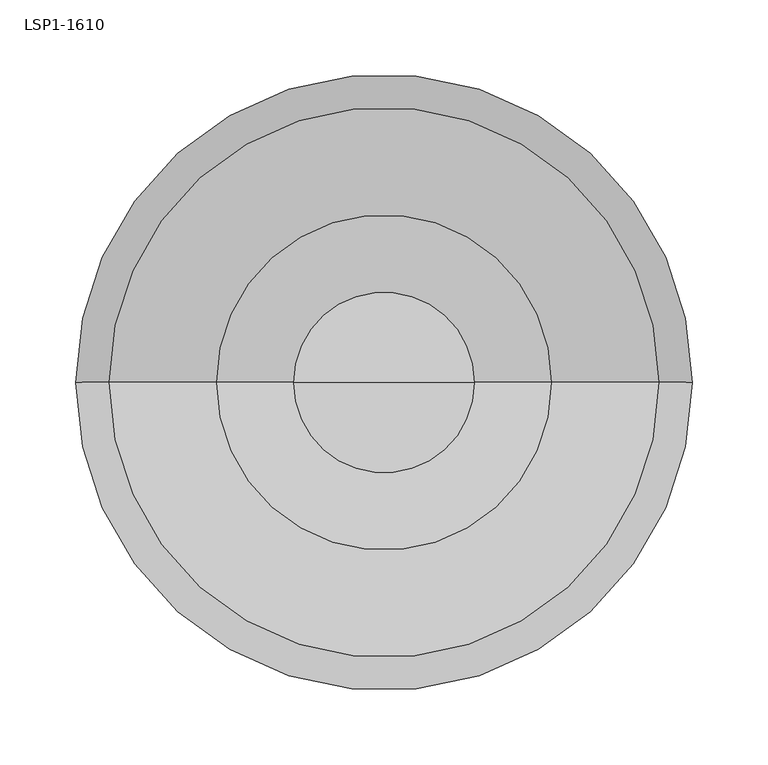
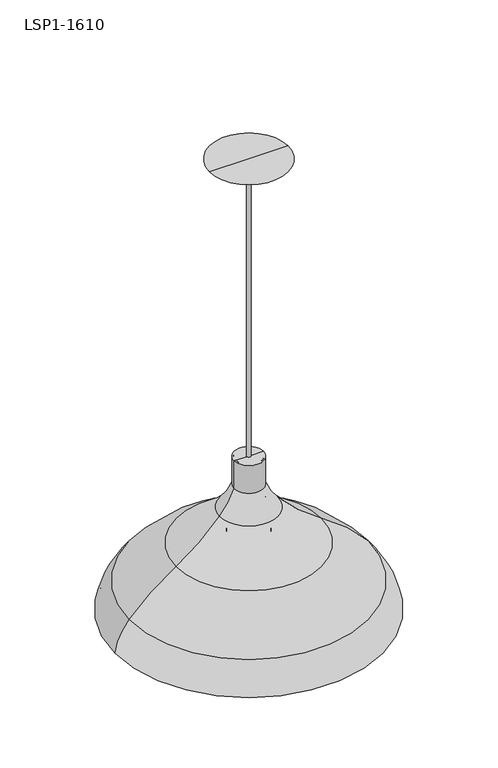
"""IFC4 building model written with IfcOpenShell, lengths in millimetres: light fixture geometry, Haworth_Swell_PendantOneLight : LSP1-1610."""

from ifc_helpers import new_model, si_unit, point, frame, origin, place, context, project, spatial, polyline, circle_curve, ellipse_curve, trimmed, source, transform, mapped, element, save
from ifc_brep_helpers import plane_surface, cylinder_surface, revolved_surface, advanced_brep


def lsp1_1610_0fb98976(model_context):
    return source(origin(), model_context, "Body", "AdvancedBrep", [
        advanced_brep(
        [(-434.1339478, -224.1223386, 2526.8983149), (-436.807265, -224.1223386, 2479.1977381), (-393.3437457, -224.1223386, 2479.1977381), (-396.0170628, -224.1223386, 2526.8983149), (-431.4411306, -224.1223386, 2526.8983149), (-398.70988, -224.1223386, 2526.8983149), (-434.1777176, -224.1223386, 2479.1498223), (-395.9732931, -224.1223386, 2479.1498223), (-432.560074, -224.1223386, 2479.1498223), (-397.5909366, -224.1223386, 2479.1498223), (-440.9016384, -224.1223386, 2454.9241603), (-389.2493722, -224.1223386, 2454.9241603), (-440.4092806, -224.1223386, 2450.598757), (-389.7417301, -224.1223386, 2450.598757), (-442.4017725, -224.1223386, 2450.598757), (-387.7492381, -224.1223386, 2450.598757), (-442.9636091, -224.1223386, 2456.4743423), (-387.1874015, -224.1223386, 2456.4743423), (-435.1393165, -224.1223386, 2479.1977381), (-395.0116942, -224.1223386, 2479.1977381)],
        [
            (0, 1, circle_curve(frame((-334.1474437, -224.1223386, 2497.3695008), z_axis=(0.0, -1.0, 0.0), x_axis=(-1.0, 0.0, 0.0)), 104.2557043)),
            (1, 2, circle_curve(frame((-415.0755053, -224.1223386, 2479.1977381), z_axis=(0.0, 0.0, 1.0), x_axis=(1.0, 0.0, 0.0)), 21.7317596)),
            (2, 3, circle_curve(frame((-496.003567, -224.1223386, 2497.3695008), z_axis=(0.0, -1.0, 0.0), x_axis=(1.0, 0.0, 0.0)), 104.2557043)),
            (3, 0, circle_curve(frame((-415.0755053, -224.1223386, 2526.8983149), z_axis=(0.0, 0.0, -1.0), x_axis=(1.0, 0.0, 0.0)), 19.0584425)),
            (2, 1, circle_curve(frame((-415.0755053, -224.1223386, 2479.1977381), z_axis=(0.0, 0.0, 1.0), x_axis=(1.0, 0.0, 0.0)), 21.7317596)),
            (0, 3, circle_curve(frame((-415.0755053, -224.1223386, 2526.8983149), z_axis=(0.0, 0.0, -1.0), x_axis=(1.0, 0.0, 0.0)), 19.0584425)),
            (4, 0),
            (3, 5),
            (5, 4, circle_curve(frame((-415.0755053, -224.1223386, 2526.8983149), z_axis=(0.0, 0.0, -1.0), x_axis=(1.0, 0.0, 0.0)), 16.3656253)),
            (4, 5, circle_curve(frame((-415.0755053, -224.1223386, 2526.8983149), z_axis=(0.0, 0.0, -1.0), x_axis=(1.0, 0.0, 0.0)), 16.3656253)),
            (6, 4, circle_curve(frame((-334.1474437, -224.1223386, 2497.3695008), z_axis=(0.0, 1.0, 0.0), x_axis=(-1.0, 0.0, 0.0)), 101.6760168)),
            (5, 7, circle_curve(frame((-496.003567, -224.1223386, 2497.3695008), z_axis=(0.0, 1.0, 0.0), x_axis=(1.0, 0.0, 0.0)), 101.6760168)),
            (7, 6, circle_curve(frame((-415.0755053, -224.1223386, 2479.1498223), z_axis=(0.0, 0.0, -1.0), x_axis=(1.0, 0.0, 0.0)), 19.1022122)),
            (6, 7, circle_curve(frame((-415.0755053, -224.1223386, 2479.1498223), z_axis=(0.0, 0.0, -1.0), x_axis=(1.0, 0.0, 0.0)), 19.1022122)),
            (8, 6),
            (7, 9),
            (9, 8, circle_curve(frame((-415.0755053, -224.1223386, 2479.1498223), z_axis=(0.0, 0.0, -1.0), x_axis=(1.0, 0.0, 0.0)), 17.4845687)),
            (8, 9, circle_curve(frame((-415.0755053, -224.1223386, 2479.1498223), z_axis=(0.0, 0.0, -1.0), x_axis=(1.0, 0.0, 0.0)), 17.4845687)),
            (10, 8, circle_curve(frame((-474.1531388, -224.1223386, 2479.9225165), z_axis=(0.0, -1.0, 0.0), x_axis=(-1.0, 0.0, 0.0)), 41.6002415)),
            (9, 11, circle_curve(frame((-355.9978718, -224.1223386, 2479.9225165), z_axis=(0.0, -1.0, 0.0), x_axis=(1.0, 0.0, 0.0)), 41.6002415)),
            (11, 10, circle_curve(frame((-415.0755053, -224.1223386, 2454.9241603), z_axis=(0.0, 0.0, -1.0), x_axis=(1.0, 0.0, 0.0)), 25.8261331)),
            (10, 11, circle_curve(frame((-415.0755053, -224.1223386, 2454.9241603), z_axis=(0.0, 0.0, -1.0), x_axis=(1.0, 0.0, 0.0)), 25.8261331)),
            (12, 10, circle_curve(frame((-438.3708401, -224.1223386, 2453.0215154), z_axis=(0.0, 1.0, 0.0), x_axis=(-1.0, 0.0, 0.0)), 3.1662277)),
            (11, 13, circle_curve(frame((-391.7801705, -224.1223386, 2453.0215154), z_axis=(0.0, 1.0, 0.0), x_axis=(1.0, 0.0, 0.0)), 3.1662277)),
            (13, 12, circle_curve(frame((-415.0755053, -224.1223386, 2450.598757), z_axis=(0.0, 0.0, -1.0), x_axis=(1.0, 0.0, 0.0)), 25.3337753)),
            (12, 13, circle_curve(frame((-415.0755053, -224.1223386, 2450.598757), z_axis=(0.0, 0.0, -1.0), x_axis=(1.0, 0.0, 0.0)), 25.3337753)),
            (14, 12),
            (13, 15),
            (15, 14, circle_curve(frame((-415.0755053, -224.1223386, 2450.598757), z_axis=(0.0, 0.0, -1.0), x_axis=(1.0, 0.0, 0.0)), 27.3262672)),
            (14, 15, circle_curve(frame((-415.0755053, -224.1223386, 2450.598757), z_axis=(0.0, 0.0, -1.0), x_axis=(1.0, 0.0, 0.0)), 27.3262672)),
            (16, 14, circle_curve(frame((-441.4055265, -224.1223386, 2453.658675), z_axis=(0.0, -1.0, 0.0), x_axis=(-1.0, 0.0, 0.0)), 3.2180124)),
            (15, 17, circle_curve(frame((-388.7454841, -224.1223386, 2453.658675), z_axis=(0.0, -1.0, 0.0), x_axis=(1.0, 0.0, 0.0)), 3.2180124)),
            (17, 16, circle_curve(frame((-415.0755053, -224.1223386, 2456.4743423), z_axis=(0.0, 0.0, -1.0), x_axis=(1.0, 0.0, 0.0)), 27.8881038)),
            (16, 17, circle_curve(frame((-415.0755053, -224.1223386, 2456.4743423), z_axis=(0.0, 0.0, -1.0), x_axis=(1.0, 0.0, 0.0)), 27.8881038)),
            (18, 16, circle_curve(frame((-474.1531388, -224.1223386, 2479.9225165), z_axis=(0.0, 1.0, 0.0), x_axis=(-1.0, 0.0, 0.0)), 39.020554)),
            (17, 19, circle_curve(frame((-355.9978718, -224.1223386, 2479.9225165), z_axis=(0.0, 1.0, 0.0), x_axis=(1.0, 0.0, 0.0)), 39.020554)),
            (19, 18, circle_curve(frame((-415.0755053, -224.1223386, 2479.1977381), z_axis=(0.0, 0.0, -1.0), x_axis=(1.0, 0.0, 0.0)), 20.0638111)),
            (18, 19, circle_curve(frame((-415.0755053, -224.1223386, 2479.1977381), z_axis=(0.0, 0.0, -1.0), x_axis=(1.0, 0.0, 0.0)), 20.0638111)),
            (1, 18),
            (19, 2),
        ],
        [
            revolved_surface(trimmed(ellipse_curve(frame((-496.003567, -224.1223386, 2497.3695008), z_axis=(0.0, -1.0, 0.0), x_axis=(1.0, 0.0, 0.0)), 104.2557043, 104.2557043), [point((-393.3437457, -224.1223386, 2479.1977381))], [point((-396.0170628, -224.1223386, 2526.8983149))], True, "CARTESIAN"), (-415.0755053, -224.1223386, 2507.6449843), (0.0, 0.0, 1.0)),
            plane_surface(frame((-415.0755053, -224.1223386, 2526.8983149), z_axis=(0.0, 0.0, 1.0), x_axis=(1.0, 0.0, 0.0))),
            revolved_surface(trimmed(ellipse_curve(frame((-496.003567, -224.1223386, 2497.3695008), z_axis=(0.0, 1.0, 0.0), x_axis=(1.0, 0.0, 0.0)), 101.6760168, 101.6760168), [point((-398.70988, -224.1223386, 2526.8983149))], [point((-395.9732931, -224.1223386, 2479.1498223))], True, "CARTESIAN"), (-415.0755053, -224.1223386, 2507.6449843), (0.0, 0.0, 1.0)),
            plane_surface(frame((-415.0755053, -224.1223386, 2479.1498223), z_axis=(0.0, 0.0, 1.0), x_axis=(1.0, 0.0, 0.0))),
            revolved_surface(trimmed(ellipse_curve(frame((-355.9978718, -224.1223386, 2479.9225165), z_axis=(0.0, -1.0, 0.0), x_axis=(1.0, 0.0, 0.0)), 41.6002415, 41.6002415), [point((-397.5909366, -224.1223386, 2479.1498223))], [point((-389.2493722, -224.1223386, 2454.9241603))], True, "CARTESIAN"), (-415.0755053, -224.1223386, 2507.6449843), (0.0, 0.0, 1.0)),
            revolved_surface(trimmed(ellipse_curve(frame((-391.7801705, -224.1223386, 2453.0215154), z_axis=(0.0, 1.0, 0.0), x_axis=(1.0, 0.0, 0.0)), 3.1662277, 3.1662277), [point((-389.2493722, -224.1223386, 2454.9241603))], [point((-389.7417301, -224.1223386, 2450.598757))], True, "CARTESIAN"), (-415.0755053, -224.1223386, 2507.6449843), (0.0, 0.0, 1.0)),
            plane_surface(frame((-415.0755053, -224.1223386, 2450.598757), z_axis=(0.0, 0.0, -1.0), x_axis=(1.0, 0.0, 0.0))),
            revolved_surface(trimmed(ellipse_curve(frame((-388.7454841, -224.1223386, 2453.658675), z_axis=(0.0, -1.0, 0.0), x_axis=(1.0, 0.0, 0.0)), 3.2180124, 3.2180124), [point((-387.7492381, -224.1223386, 2450.598757))], [point((-387.1874015, -224.1223386, 2456.4743423))], True, "CARTESIAN"), (-415.0755053, -224.1223386, 2507.6449843), (0.0, 0.0, 1.0)),
            revolved_surface(trimmed(ellipse_curve(frame((-355.9978718, -224.1223386, 2479.9225165), z_axis=(0.0, 1.0, 0.0), x_axis=(1.0, 0.0, 0.0)), 39.020554, 39.020554), [point((-387.1874015, -224.1223386, 2456.4743423))], [point((-395.0116942, -224.1223386, 2479.1977381))], True, "CARTESIAN"), (-415.0755053, -224.1223386, 2507.6449843), (0.0, 0.0, 1.0)),
            plane_surface(frame((-415.0755053, -224.1223386, 2479.1977381), z_axis=(0.0, 0.0, -1.0), x_axis=(1.0, 0.0, 0.0))),
        ],
        [
            (0, [[1, 2, 3, 4]]),
            (0, [[-3, 5, -1, 6]]),
            (1, [[7, -4, 8, 9]]),
            (1, [[-8, -6, -7, 10]]),
            (2, [[11, -9, 12, 13]]),
            (2, [[-12, -10, -11, 14]]),
            (3, [[15, -13, 16, 17]]),
            (3, [[-16, -14, -15, 18]]),
            (4, [[19, -17, 20, 21]]),
            (4, [[-20, -18, -19, 22]]),
            (5, [[23, -21, 24, 25]]),
            (5, [[-24, -22, -23, 26]]),
            (6, [[27, -25, 28, 29]]),
            (6, [[-28, -26, -27, 30]]),
            (7, [[31, -29, 32, 33]]),
            (7, [[-32, -30, -31, 34]]),
            (8, [[35, -33, 36, 37]]),
            (8, [[-36, -34, -35, 38]]),
            (9, [[39, -37, 40, -2]]),
            (9, [[-40, -38, -39, -5]]),
        ],
    ),
        advanced_brep(
        [(-596.5646284, -224.1223386, 2372.4100703), (-618.2755053, -224.1223386, 2326.655318), (-211.8755053, -224.1223386, 2326.655318), (-233.5863822, -224.1223386, 2372.4100703), (-525.7075333, -224.1223386, 2433.0482753), (-304.4434773, -224.1223386, 2433.0482753), (-437.2818509, -224.1223386, 2526.8983149), (-459.0978708, -224.1223386, 2490.3341786), (-371.0531398, -224.1223386, 2490.3341786), (-392.8691597, -224.1223386, 2526.8983149), (-434.5295407, -224.1223386, 2526.8983149), (-395.62147, -224.1223386, 2526.8983149), (-457.1514699, -224.1223386, 2488.6411602), (-372.9995407, -224.1223386, 2488.6411602), (-524.3248861, -224.1223386, 2430.8704152), (-305.8261245, -224.1223386, 2430.8704152), (-594.6265251, -224.1223386, 2370.7075593), (-235.5244855, -224.1223386, 2370.7075593), (-615.7309871, -224.1223386, 2326.2308009), (-214.4200235, -224.1223386, 2326.2308009)],
        [
            (0, 1, circle_curve(frame((-527.176628, -224.1223386, 2311.4567492), z_axis=(0.0, -1.0, 0.0), x_axis=(-1.0, 0.0, 0.0)), 92.3580096)),
            (1, 2, circle_curve(frame((-415.0755053, -224.1223386, 2326.655318), z_axis=(0.0, 0.0, 1.0), x_axis=(1.0, 0.0, 0.0)), 203.2)),
            (2, 3, circle_curve(frame((-302.9743826, -224.1223386, 2311.4567492), z_axis=(0.0, -1.0, 0.0), x_axis=(1.0, 0.0, 0.0)), 92.3580096)),
            (3, 0, circle_curve(frame((-415.0755053, -224.1223386, 2372.4100703), z_axis=(0.0, 0.0, -1.0), x_axis=(1.0, 0.0, 0.0)), 181.4891231)),
            (2, 1, circle_curve(frame((-415.0755053, -224.1223386, 2326.655318), z_axis=(0.0, 0.0, 1.0), x_axis=(1.0, 0.0, 0.0)), 203.2)),
            (0, 3, circle_curve(frame((-415.0755053, -224.1223386, 2372.4100703), z_axis=(0.0, 0.0, -1.0), x_axis=(1.0, 0.0, 0.0)), 181.4891231)),
            (4, 0, circle_curve(frame((-349.329281, -224.1223386, 2155.2282028), z_axis=(0.0, -1.0, 0.0), x_axis=(-1.0, 0.0, 0.0)), 329.0794441)),
            (3, 5, circle_curve(frame((-480.8217296, -224.1223386, 2155.2282028), z_axis=(0.0, -1.0, 0.0), x_axis=(1.0, 0.0, 0.0)), 329.0794441)),
            (5, 4, circle_curve(frame((-415.0755053, -224.1223386, 2433.0482753), z_axis=(0.0, 0.0, -1.0), x_axis=(1.0, 0.0, 0.0)), 110.632028)),
            (4, 5, circle_curve(frame((-415.0755053, -224.1223386, 2433.0482753), z_axis=(0.0, 0.0, -1.0), x_axis=(1.0, 0.0, 0.0)), 110.632028)),
            (6, 7, circle_curve(frame((-549.8487203, -224.1223386, 2569.2710829), z_axis=(0.0, 1.0, 0.0), x_axis=(-1.0, 0.0, 0.0)), 120.2778099)),
            (7, 8, circle_curve(frame((-415.0755053, -224.1223386, 2490.3341786), z_axis=(0.0, 0.0, 1.0), x_axis=(1.0, 0.0, 0.0)), 44.0223655)),
            (8, 9, circle_curve(frame((-280.3022903, -224.1223386, 2569.2710829), z_axis=(0.0, 1.0, 0.0), x_axis=(1.0, 0.0, 0.0)), 120.2778099)),
            (9, 6, circle_curve(frame((-415.0755053, -224.1223386, 2526.8983149), z_axis=(0.0, 0.0, -1.0), x_axis=(1.0, 0.0, 0.0)), 22.2063456)),
            (8, 7, circle_curve(frame((-415.0755053, -224.1223386, 2490.3341786), z_axis=(0.0, 0.0, 1.0), x_axis=(1.0, 0.0, 0.0)), 44.0223655)),
            (6, 9, circle_curve(frame((-415.0755053, -224.1223386, 2526.8983149), z_axis=(0.0, 0.0, -1.0), x_axis=(1.0, 0.0, 0.0)), 22.2063456)),
            (7, 4, circle_curve(frame((-689.0726181, -224.1223386, 2690.3708142), z_axis=(0.0, 1.0, 0.0), x_axis=(-1.0, 0.0, 0.0)), 304.8)),
            (5, 8, circle_curve(frame((-141.0783925, -224.1223386, 2690.3708142), z_axis=(0.0, 1.0, 0.0), x_axis=(1.0, 0.0, 0.0)), 304.8)),
            (10, 6),
            (9, 11),
            (11, 10, circle_curve(frame((-415.0755053, -224.1223386, 2526.8983149), z_axis=(0.0, 0.0, -1.0), x_axis=(1.0, 0.0, 0.0)), 19.4540354)),
            (10, 11, circle_curve(frame((-415.0755053, -224.1223386, 2526.8983149), z_axis=(0.0, 0.0, -1.0), x_axis=(1.0, 0.0, 0.0)), 19.4540354)),
            (12, 10, circle_curve(frame((-549.8487203, -224.1223386, 2569.2710829), z_axis=(0.0, -1.0, 0.0), x_axis=(-1.0, 0.0, 0.0)), 122.8574974)),
            (11, 13, circle_curve(frame((-280.3022903, -224.1223386, 2569.2710829), z_axis=(0.0, -1.0, 0.0), x_axis=(1.0, 0.0, 0.0)), 122.8574974)),
            (13, 12, circle_curve(frame((-415.0755053, -224.1223386, 2488.6411602), z_axis=(0.0, 0.0, -1.0), x_axis=(1.0, 0.0, 0.0)), 42.0759646)),
            (12, 13, circle_curve(frame((-415.0755053, -224.1223386, 2488.6411602), z_axis=(0.0, 0.0, -1.0), x_axis=(1.0, 0.0, 0.0)), 42.0759646)),
            (14, 12, circle_curve(frame((-689.0726181, -224.1223386, 2690.3708142), z_axis=(0.0, -1.0, 0.0), x_axis=(-1.0, 0.0, 0.0)), 307.3796875)),
            (13, 15, circle_curve(frame((-141.0783925, -224.1223386, 2690.3708142), z_axis=(0.0, -1.0, 0.0), x_axis=(1.0, 0.0, 0.0)), 307.3796875)),
            (15, 14, circle_curve(frame((-415.0755053, -224.1223386, 2430.8704152), z_axis=(0.0, 0.0, -1.0), x_axis=(1.0, 0.0, 0.0)), 109.2493808)),
            (14, 15, circle_curve(frame((-415.0755053, -224.1223386, 2430.8704152), z_axis=(0.0, 0.0, -1.0), x_axis=(1.0, 0.0, 0.0)), 109.2493808)),
            (16, 14, circle_curve(frame((-349.329281, -224.1223386, 2155.2282028), z_axis=(0.0, 1.0, 0.0), x_axis=(-1.0, 0.0, 0.0)), 326.4997566)),
            (15, 17, circle_curve(frame((-480.8217296, -224.1223386, 2155.2282028), z_axis=(0.0, 1.0, 0.0), x_axis=(1.0, 0.0, 0.0)), 326.4997566)),
            (17, 16, circle_curve(frame((-415.0755053, -224.1223386, 2370.7075593), z_axis=(0.0, 0.0, -1.0), x_axis=(1.0, 0.0, 0.0)), 179.5510198)),
            (16, 17, circle_curve(frame((-415.0755053, -224.1223386, 2370.7075593), z_axis=(0.0, 0.0, -1.0), x_axis=(1.0, 0.0, 0.0)), 179.5510198)),
            (18, 16, circle_curve(frame((-527.176628, -224.1223386, 2311.4567492), z_axis=(0.0, 1.0, 0.0), x_axis=(-1.0, 0.0, 0.0)), 89.7783221)),
            (17, 19, circle_curve(frame((-302.9743826, -224.1223386, 2311.4567492), z_axis=(0.0, 1.0, 0.0), x_axis=(1.0, 0.0, 0.0)), 89.7783221)),
            (19, 18, circle_curve(frame((-415.0755053, -224.1223386, 2326.2308009), z_axis=(0.0, 0.0, -1.0), x_axis=(1.0, 0.0, 0.0)), 200.6554818)),
            (18, 19, circle_curve(frame((-415.0755053, -224.1223386, 2326.2308009), z_axis=(0.0, 0.0, -1.0), x_axis=(1.0, 0.0, 0.0)), 200.6554818)),
            (1, 18),
            (19, 2),
        ],
        [
            revolved_surface(trimmed(ellipse_curve(frame((-302.9743826, -224.1223386, 2311.4567492), z_axis=(0.0, -1.0, 0.0), x_axis=(1.0, 0.0, 0.0)), 92.3580096, 92.3580096), [point((-211.8755053, -224.1223386, 2326.655318))], [point((-233.5863822, -224.1223386, 2372.4100703))], True, "CARTESIAN"), (-415.0755053, -224.1223386, 2526.8983149), (0.0, 0.0, 1.0)),
            revolved_surface(trimmed(ellipse_curve(frame((-480.8217296, -224.1223386, 2155.2282028), z_axis=(0.0, -1.0, 0.0), x_axis=(1.0, 0.0, 0.0)), 329.0794441, 329.0794441), [point((-233.5863822, -224.1223386, 2372.4100703))], [point((-304.4434773, -224.1223386, 2433.0482753))], True, "CARTESIAN"), (-415.0755053, -224.1223386, 2526.8983149), (0.0, 0.0, 1.0)),
            revolved_surface(trimmed(ellipse_curve(frame((-280.3022903, -224.1223386, 2569.2710829), z_axis=(0.0, 1.0, 0.0), x_axis=(1.0, 0.0, 0.0)), 120.2778099, 120.2778099), [point((-371.0531398, -224.1223386, 2490.3341786))], [point((-392.8691597, -224.1223386, 2526.8983149))], True, "CARTESIAN"), (-415.0755053, -224.1223386, 2526.8983149), (0.0, 0.0, 1.0)),
            revolved_surface(trimmed(ellipse_curve(frame((-141.0783925, -224.1223386, 2690.3708142), z_axis=(0.0, 1.0, 0.0), x_axis=(1.0, 0.0, 0.0)), 304.8, 304.8), [point((-304.4434773, -224.1223386, 2433.0482753))], [point((-371.0531398, -224.1223386, 2490.3341786))], True, "CARTESIAN"), (-415.0755053, -224.1223386, 2526.8983149), (0.0, 0.0, 1.0)),
            plane_surface(frame((-415.0755053, -224.1223386, 2526.8983149), z_axis=(0.0, 0.0, 1.0), x_axis=(1.0, 0.0, 0.0))),
            revolved_surface(trimmed(ellipse_curve(frame((-280.3022903, -224.1223386, 2569.2710829), z_axis=(0.0, -1.0, 0.0), x_axis=(1.0, 0.0, 0.0)), 122.8574974, 122.8574974), [point((-395.62147, -224.1223386, 2526.8983149))], [point((-372.9995407, -224.1223386, 2488.6411602))], True, "CARTESIAN"), (-415.0755053, -224.1223386, 2526.8983149), (0.0, 0.0, 1.0)),
            revolved_surface(trimmed(ellipse_curve(frame((-141.0783925, -224.1223386, 2690.3708142), z_axis=(0.0, -1.0, 0.0), x_axis=(1.0, 0.0, 0.0)), 307.3796875, 307.3796875), [point((-372.9995407, -224.1223386, 2488.6411602))], [point((-305.8261245, -224.1223386, 2430.8704152))], True, "CARTESIAN"), (-415.0755053, -224.1223386, 2526.8983149), (0.0, 0.0, 1.0)),
            revolved_surface(trimmed(ellipse_curve(frame((-480.8217296, -224.1223386, 2155.2282028), z_axis=(0.0, 1.0, 0.0), x_axis=(1.0, 0.0, 0.0)), 326.4997566, 326.4997566), [point((-305.8261245, -224.1223386, 2430.8704152))], [point((-235.5244855, -224.1223386, 2370.7075593))], True, "CARTESIAN"), (-415.0755053, -224.1223386, 2526.8983149), (0.0, 0.0, 1.0)),
            revolved_surface(trimmed(ellipse_curve(frame((-302.9743826, -224.1223386, 2311.4567492), z_axis=(0.0, 1.0, 0.0), x_axis=(1.0, 0.0, 0.0)), 89.7783221, 89.7783221), [point((-235.5244855, -224.1223386, 2370.7075593))], [point((-214.4200235, -224.1223386, 2326.2308009))], True, "CARTESIAN"), (-415.0755053, -224.1223386, 2526.8983149), (0.0, 0.0, 1.0)),
            revolved_surface(polyline([(-214.4200235, -224.1223386, 2326.2308009), (-211.8755053, -224.1223386, 2326.655318)]), (-415.0755053, -224.1223386, 2526.8983149), (0.0, 0.0, 1.0)),
        ],
        [
            (0, [[1, 2, 3, 4]]),
            (0, [[-3, 5, -1, 6]]),
            (1, [[7, -4, 8, 9]]),
            (1, [[-8, -6, -7, 10]]),
            (2, [[11, 12, 13, 14]]),
            (2, [[-13, 15, -11, 16]]),
            (3, [[17, -9, 18, -12]]),
            (3, [[-18, -10, -17, -15]]),
            (4, [[19, -14, 20, 21]]),
            (4, [[-20, -16, -19, 22]]),
            (5, [[23, -21, 24, 25]]),
            (5, [[-24, -22, -23, 26]]),
            (6, [[27, -25, 28, 29]]),
            (6, [[-28, -26, -27, 30]]),
            (7, [[31, -29, 32, 33]]),
            (7, [[-32, -30, -31, 34]]),
            (8, [[35, -33, 36, 37]]),
            (8, [[-36, -34, -35, 38]]),
            (9, [[39, -37, 40, -2]]),
            (9, [[-40, -38, -39, -5]]),
        ],
    ),
        advanced_brep(
        [(-437.2777155, -224.2532085, 2526.8983149), (-415.0713699, -224.2532085, 2526.8983149), (-392.8650243, -224.2532085, 2526.8983149), (-437.2777155, -224.2532085, 2571.6417702), (-392.8650243, -224.2532085, 2571.6417702), (-415.0713699, -224.2532085, 2571.6417702)],
        [
            (0, 1),
            (1, 2),
            (2, 0, circle_curve(frame((-415.0713699, -224.2532085, 2526.8983149), z_axis=(0.0, 0.0, -1.0), x_axis=(1.0, 0.0, 0.0)), 22.2063456)),
            (0, 2, circle_curve(frame((-415.0713699, -224.2532085, 2526.8983149), z_axis=(0.0, 0.0, -1.0), x_axis=(1.0, 0.0, 0.0)), 22.2063456)),
            (3, 0),
            (2, 4),
            (4, 3, circle_curve(frame((-415.0713699, -224.2532085, 2571.6417702), z_axis=(0.0, 0.0, -1.0), x_axis=(1.0, 0.0, 0.0)), 22.2063456)),
            (3, 4, circle_curve(frame((-415.0713699, -224.2532085, 2571.6417702), z_axis=(0.0, 0.0, -1.0), x_axis=(1.0, 0.0, 0.0)), 22.2063456)),
            (5, 3),
            (4, 5),
        ],
        [
            plane_surface(frame((-415.0713699, -224.2532085, 2526.8983149), z_axis=(0.0, 0.0, -1.0), x_axis=(1.0, 0.0, 0.0))),
            cylinder_surface(frame((-415.0713699, -224.2532085, 2571.6417702), z_axis=(0.0, 0.0, 1.0), x_axis=(1.0, 0.0, 0.0)), 22.2063456),
            plane_surface(frame((-415.0713699, -224.2532085, 2571.6417702), z_axis=(0.0, 0.0, 1.0), x_axis=(1.0, 0.0, 0.0))),
        ],
        [
            (0, [[1, 2, 3]]),
            (0, [[-2, -1, 4]]),
            (1, [[5, -3, 6, 7]]),
            (1, [[-6, -4, -5, 8]]),
            (2, [[9, -7, 10]]),
            (2, [[-10, -8, -9]]),
        ],
    ),
        advanced_brep(
        [(-435.3113988, -224.2532085, 2569.2170981), (-415.0713699, -224.2532085, 2569.2170981), (-394.8313411, -224.2532085, 2569.2170981), (-435.3113988, -224.2532085, 2571.6417702), (-394.8313411, -224.2532085, 2571.6417702), (-415.0713699, -224.2532085, 2571.6417702)],
        [
            (0, 1),
            (1, 2),
            (2, 0, circle_curve(frame((-415.0713699, -224.2532085, 2569.2170981), z_axis=(0.0, 0.0, -1.0), x_axis=(1.0, 0.0, 0.0)), 20.2400288)),
            (0, 2, circle_curve(frame((-415.0713699, -224.2532085, 2569.2170981), z_axis=(0.0, 0.0, -1.0), x_axis=(1.0, 0.0, 0.0)), 20.2400288)),
            (3, 0),
            (2, 4),
            (4, 3, circle_curve(frame((-415.0713699, -224.2532085, 2571.6417702), z_axis=(0.0, 0.0, -1.0), x_axis=(1.0, 0.0, 0.0)), 20.2400288)),
            (3, 4, circle_curve(frame((-415.0713699, -224.2532085, 2571.6417702), z_axis=(0.0, 0.0, -1.0), x_axis=(1.0, 0.0, 0.0)), 20.2400288)),
            (5, 3),
            (4, 5),
        ],
        [
            plane_surface(frame((-415.0713699, -224.2532085, 2569.2170981), z_axis=(0.0, 0.0, -1.0), x_axis=(1.0, 0.0, 0.0))),
            cylinder_surface(frame((-415.0713699, -224.2532085, 2571.6417702), z_axis=(0.0, 0.0, 1.0), x_axis=(1.0, 0.0, 0.0)), 20.2400288),
            plane_surface(frame((-415.0713699, -224.2532085, 2571.6417702), z_axis=(0.0, 0.0, 1.0), x_axis=(1.0, 0.0, 0.0))),
        ],
        [
            (0, [[1, 2, 3]]),
            (0, [[-2, -1, 4]]),
            (1, [[5, -3, 6, 7]]),
            (1, [[-6, -4, -5, 8]]),
            (2, [[9, -7, 10]]),
            (2, [[-10, -8, -9]]),
        ],
    ),
        advanced_brep(
        [(-418.2563996, -224.2532085, 2571.6417702), (-415.0713699, -224.2532085, 2571.6417702), (-411.8863403, -224.2532085, 2571.6417702), (-418.2563996, -224.2532085, 3028.8723885), (-411.8863403, -224.2532085, 3028.8723885), (-415.0713699, -224.2532085, 3028.8723885)],
        [
            (0, 1),
            (1, 2),
            (2, 0, circle_curve(frame((-415.0713699, -224.2532085, 2571.6417702), z_axis=(0.0, 0.0, -1.0), x_axis=(1.0, 0.0, 0.0)), 3.1850297)),
            (0, 2, circle_curve(frame((-415.0713699, -224.2532085, 2571.6417702), z_axis=(0.0, 0.0, -1.0), x_axis=(1.0, 0.0, 0.0)), 3.1850297)),
            (3, 0),
            (2, 4),
            (4, 3, circle_curve(frame((-415.0713699, -224.2532085, 3028.8723885), z_axis=(0.0, 0.0, -1.0), x_axis=(1.0, 0.0, 0.0)), 3.1850297)),
            (3, 4, circle_curve(frame((-415.0713699, -224.2532085, 3028.8723885), z_axis=(0.0, 0.0, -1.0), x_axis=(1.0, 0.0, 0.0)), 3.1850297)),
            (5, 3),
            (4, 5),
        ],
        [
            plane_surface(frame((-415.0713699, -224.2532085, 2571.6417702), z_axis=(0.0, 0.0, -1.0), x_axis=(1.0, 0.0, 0.0))),
            cylinder_surface(frame((-415.0713699, -224.2532085, 3029.2107758), z_axis=(0.0, 0.0, 1.0), x_axis=(1.0, 0.0, 0.0)), 3.1850297),
            plane_surface(frame((-415.0713699, -224.2532085, 3028.8723885), z_axis=(0.0, 0.0, 1.0), x_axis=(1.0, 0.0, 0.0))),
        ],
        [
            (0, [[1, 2, 3]]),
            (0, [[-2, -1, 4]]),
            (1, [[5, -3, 6, 7]]),
            (1, [[-6, -4, -5, 8]]),
            (2, [[9, -7, 10]]),
            (2, [[-10, -8, -9]]),
        ],
    ),
        advanced_brep(
        [(-415.0613403, -224.2532085, 3031.1238014), (-421.8613403, -224.2532085, 3031.1238014), (-408.2613404, -224.2532085, 3031.1238014), (-421.8613403, -224.2532085, 3028.8723885), (-415.0613403, -224.2532085, 3028.8723885), (-408.2613404, -224.2532085, 3028.8723885)],
        [
            (0, 1),
            (1, 2, circle_curve(frame((-415.0613403, -224.2532085, 3031.1238014), z_axis=(0.0, 0.0, 1.0), x_axis=(1.0, 0.0, 0.0)), 6.8)),
            (2, 0),
            (2, 1, circle_curve(frame((-415.0613403, -224.2532085, 3031.1238014), z_axis=(0.0, 0.0, 1.0), x_axis=(1.0, 0.0, 0.0)), 6.8)),
            (3, 4),
            (4, 5),
            (5, 3, circle_curve(frame((-415.0613403, -224.2532085, 3028.8723885), z_axis=(0.0, 0.0, -1.0), x_axis=(1.0, 0.0, 0.0)), 6.8)),
            (3, 5, circle_curve(frame((-415.0613403, -224.2532085, 3028.8723885), z_axis=(0.0, 0.0, -1.0), x_axis=(1.0, 0.0, 0.0)), 6.8)),
            (1, 3),
            (5, 2),
        ],
        [
            plane_surface(frame((-415.0613403, -224.2532085, 3031.1238014), z_axis=(0.0, 0.0, 1.0), x_axis=(1.0, 0.0, 0.0))),
            plane_surface(frame((-415.0613403, -224.2532085, 3028.8723885), z_axis=(0.0, 0.0, -1.0), x_axis=(1.0, 0.0, 0.0))),
            cylinder_surface(frame((-415.0613403, -224.2532085, 3031.1238014), z_axis=(0.0, 0.0, 1.0), x_axis=(1.0, 0.0, 0.0)), 6.8),
        ],
        [
            (0, [[1, 2, 3]]),
            (0, [[-3, 4, -1]]),
            (1, [[5, 6, 7]]),
            (1, [[-6, -5, 8]]),
            (2, [[9, -7, 10, -2]]),
            (2, [[-10, -8, -9, -4]]),
        ],
    ),
        advanced_brep(
        [(-421.8616647, -224.2532085, 3031.1238014), (-415.0613403, -224.2532085, 3031.1238014), (-408.261016, -224.2532085, 3031.1238014), (-474.5613423, -224.2532085, 3048.0), (-355.5613384, -224.2532085, 3048.0), (-415.0613403, -224.2532085, 3048.0)],
        [
            (0, 1),
            (1, 2),
            (2, 0, circle_curve(frame((-415.0613403, -224.2532085, 3031.1238014), z_axis=(0.0, 0.0, -1.0), x_axis=(1.0, 0.0, 0.0)), 6.8003243)),
            (0, 2, circle_curve(frame((-415.0613403, -224.2532085, 3031.1238014), z_axis=(0.0, 0.0, -1.0), x_axis=(1.0, 0.0, 0.0)), 6.8003243)),
            (3, 0, circle_curve(frame((-409.5358814, -224.2532085, 3160.3351188), z_axis=(0.0, -1.0, 0.0), x_axis=(-1.0, 0.0, 0.0)), 129.7978793)),
            (2, 4, circle_curve(frame((-420.5867993, -224.2532085, 3160.3351188), z_axis=(0.0, -1.0, 0.0), x_axis=(1.0, 0.0, 0.0)), 129.7978793)),
            (4, 3, circle_curve(frame((-415.0613403, -224.2532085, 3048.0), z_axis=(0.0, 0.0, -1.0), x_axis=(1.0, 0.0, 0.0)), 59.5000019)),
            (3, 4, circle_curve(frame((-415.0613403, -224.2532085, 3048.0), z_axis=(0.0, 0.0, -1.0), x_axis=(1.0, 0.0, 0.0)), 59.5000019)),
            (5, 3),
            (4, 5),
        ],
        [
            plane_surface(frame((-415.0613403, -224.2532085, 3031.1238014), z_axis=(0.0, 0.0, -1.0), x_axis=(1.0, 0.0, 0.0))),
            revolved_surface(trimmed(ellipse_curve(frame((-420.5867993, -224.2532085, 3160.3351188), z_axis=(0.0, -1.0, 0.0), x_axis=(1.0, 0.0, 0.0)), 129.7978793, 129.7978793), [point((-408.261016, -224.2532085, 3031.1238014))], [point((-355.5613384, -224.2532085, 3048.0))], True, "CARTESIAN"), (-415.0613403, -224.2532085, 3048.0), (0.0, 0.0, 1.0)),
            plane_surface(frame((-415.0613403, -224.2532085, 3048.0), z_axis=(0.0, 0.0, 1.0), x_axis=(1.0, 0.0, 0.0))),
        ],
        [
            (0, [[1, 2, 3]]),
            (0, [[-2, -1, 4]]),
            (1, [[5, -3, 6, 7]]),
            (1, [[-6, -4, -5, 8]]),
            (2, [[9, -7, 10]]),
            (2, [[-10, -8, -9]]),
        ],
    ),
    ])


if __name__ == "__main__":
    model = new_model("IFC4")
    model_context = context("Model", 3, world=origin())
    ifc_project = project(units=[si_unit("LENGTHUNIT", "METRE", prefix="MILLI")], contexts=[model_context])
    site = spatial("IfcSite", under=ifc_project)
    building = spatial("IfcBuilding", under=site)
    placement = place(None, origin())
    lsp1_1610_shape = lsp1_1610_0fb98976(model_context)
    element("IfcLightFixture", 1, ObjectType="Haworth_Swell_PendantOneLight : LSP1-1610", at=placement, inside=building, context=model_context, shape_type="MappedRepresentation", body=[
        mapped(lsp1_1610_shape, transform((0.0, 0.0, 0.0), x_axis=(1.0, 0.0, 0.0), y_axis=(0.0, 1.0, 0.0), z_axis=(0.0, 0.0, 1.0))),
    ])
    save(model, "model.ifc")
